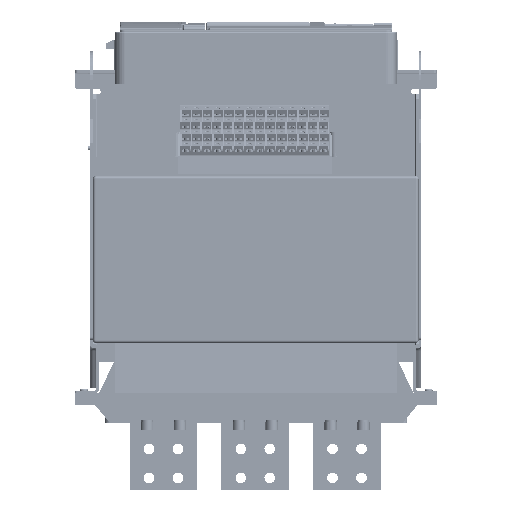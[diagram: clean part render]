
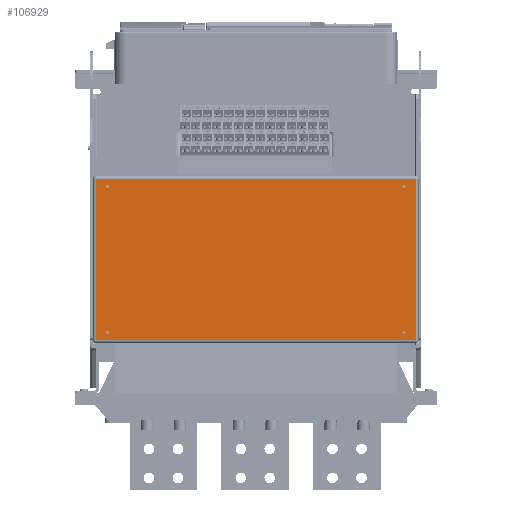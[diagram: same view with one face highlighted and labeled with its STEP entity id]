
A CAD part, front view. The second image highlights one B-rep face of the part: STEP entity #106929.
In plain terms, the highlighted planar face has unit normal (0, -1, 0).
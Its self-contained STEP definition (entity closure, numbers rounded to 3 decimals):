
#5004=FACE_BOUND('',#13474,.T.);
#5005=FACE_BOUND('',#13475,.T.);
#5006=FACE_BOUND('',#13476,.T.);
#5007=FACE_BOUND('',#13477,.T.);
#7418=FACE_OUTER_BOUND('',#13473,.T.);
#13473=EDGE_LOOP('',(#79953,#79954,#79955,#79956));
#13474=EDGE_LOOP('',(#79957));
#13475=EDGE_LOOP('',(#79958));
#13476=EDGE_LOOP('',(#79959));
#13477=EDGE_LOOP('',(#79960));
#18623=CIRCLE('',#114198,1.75);
#18624=CIRCLE('',#114199,1.75);
#18625=CIRCLE('',#114200,1.75);
#18626=CIRCLE('',#114201,1.75);
#25535=LINE('',#163158,#36818);
#25536=LINE('',#163160,#36819);
#25537=LINE('',#163162,#36820);
#25538=LINE('',#163163,#36821);
#36818=VECTOR('',#130775,167.);
#36819=VECTOR('',#130776,331.);
#36820=VECTOR('',#130777,167.);
#36821=VECTOR('',#130778,331.);
#47203=VERTEX_POINT('',#163156);
#47204=VERTEX_POINT('',#163157);
#47205=VERTEX_POINT('',#163159);
#47206=VERTEX_POINT('',#163161);
#47207=VERTEX_POINT('',#163164);
#47208=VERTEX_POINT('',#163166);
#47209=VERTEX_POINT('',#163168);
#47210=VERTEX_POINT('',#163170);
#59173=EDGE_CURVE('',#47203,#47204,#25535,.T.);
#59174=EDGE_CURVE('',#47204,#47205,#25536,.T.);
#59175=EDGE_CURVE('',#47205,#47206,#25537,.T.);
#59176=EDGE_CURVE('',#47206,#47203,#25538,.T.);
#59177=EDGE_CURVE('',#47207,#47207,#18623,.T.);
#59178=EDGE_CURVE('',#47208,#47208,#18624,.T.);
#59179=EDGE_CURVE('',#47209,#47209,#18625,.T.);
#59180=EDGE_CURVE('',#47210,#47210,#18626,.T.);
#79953=ORIENTED_EDGE('',*,*,#59173,.T.);
#79954=ORIENTED_EDGE('',*,*,#59174,.T.);
#79955=ORIENTED_EDGE('',*,*,#59175,.T.);
#79956=ORIENTED_EDGE('',*,*,#59176,.T.);
#79957=ORIENTED_EDGE('',*,*,#59177,.F.);
#79958=ORIENTED_EDGE('',*,*,#59178,.F.);
#79959=ORIENTED_EDGE('',*,*,#59179,.F.);
#79960=ORIENTED_EDGE('',*,*,#59180,.F.);
#102828=PLANE('',#114197);
#106929=ADVANCED_FACE('',(#7418,#5004,#5005,#5006,#5007),#102828,.F.);
#114197=AXIS2_PLACEMENT_3D('',#163155,#130773,#130774);
#114198=AXIS2_PLACEMENT_3D('',#163165,#130779,#130780);
#114199=AXIS2_PLACEMENT_3D('',#163167,#130781,#130782);
#114200=AXIS2_PLACEMENT_3D('',#163169,#130783,#130784);
#114201=AXIS2_PLACEMENT_3D('',#163171,#130785,#130786);
#130773=DIRECTION('center_axis',(0.,1.,0.));
#130774=DIRECTION('ref_axis',(1.,0.,0.));
#130775=DIRECTION('',(0.,0.,1.));
#130776=DIRECTION('',(-1.,0.,0.));
#130777=DIRECTION('',(0.,0.,-1.));
#130778=DIRECTION('',(1.,0.,0.));
#130779=DIRECTION('center_axis',(0.,-1.,0.));
#130780=DIRECTION('ref_axis',(1.,0.,0.));
#130781=DIRECTION('center_axis',(0.,-1.,0.));
#130782=DIRECTION('ref_axis',(1.,0.,0.));
#130783=DIRECTION('center_axis',(0.,-1.,0.));
#130784=DIRECTION('ref_axis',(1.,0.,0.));
#130785=DIRECTION('center_axis',(0.,-1.,0.));
#130786=DIRECTION('ref_axis',(1.,0.,0.));
#163155=CARTESIAN_POINT('Origin',(0.,0.,0.));
#163156=CARTESIAN_POINT('',(165.5,0.,-83.5));
#163157=CARTESIAN_POINT('',(165.5,0.,83.5));
#163158=CARTESIAN_POINT('',(165.5,0.,-83.5));
#163159=CARTESIAN_POINT('',(-165.5,0.,83.5));
#163160=CARTESIAN_POINT('',(165.5,0.,83.5));
#163161=CARTESIAN_POINT('',(-165.5,0.,-83.5));
#163162=CARTESIAN_POINT('',(-165.5,0.,83.5));
#163163=CARTESIAN_POINT('',(-165.5,0.,-83.5));
#163164=CARTESIAN_POINT('',(151.75,0.,75.5));
#163165=CARTESIAN_POINT('Origin',(153.5,0.,75.5));
#163166=CARTESIAN_POINT('',(151.75,0.,-75.5));
#163167=CARTESIAN_POINT('Origin',(153.5,0.,-75.5));
#163168=CARTESIAN_POINT('',(-155.25,0.,-75.5));
#163169=CARTESIAN_POINT('Origin',(-153.5,0.,-75.5));
#163170=CARTESIAN_POINT('',(-155.25,0.,75.5));
#163171=CARTESIAN_POINT('Origin',(-153.5,0.,75.5));
